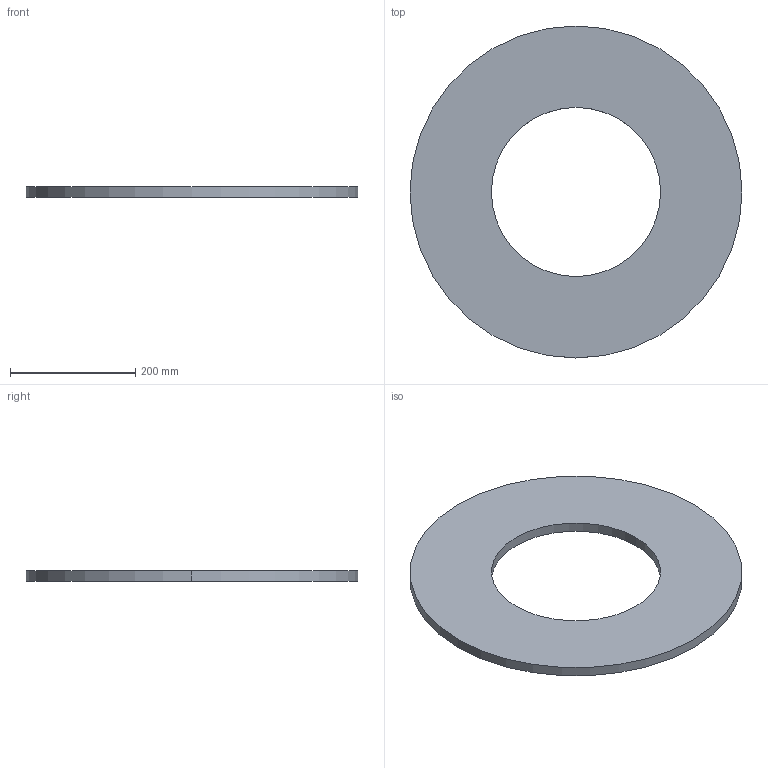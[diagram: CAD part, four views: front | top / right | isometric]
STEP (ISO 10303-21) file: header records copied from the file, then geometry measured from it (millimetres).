
FILE_DESCRIPTION (( 'STEP AP203' ), '1' );
FILE_NAME ('YWSD-2026-03-01-01-01=001 唅蛌奻啣.STEP', '2026-07-24T07:27:10', ( 'Windows 蚚誧' ), ( '' ), 'SwSTEP 2.0', 'SolidWorks 2024', '' );
FILE_SCHEMA (( 'CONFIG_CONTROL_DESIGN' ));
Length unit declared in the file: millimetre
Products named in the file (1): YWSD-2026-03-01-01-01=001 旋转上板
Bounding box: 530 x 530 x 16 mm (x, y, z)
Volume: 2613805.1 mm3; surface area: 366938 mm2
Topology: 1 solids, 1 shells, 6 faces, 12 edges, 8 vertices
Faces by surface type: cylinder 4, plane 2
Entity records: 245 total; most frequent: DIRECTION 34, CARTESIAN_POINT 27, ORIENTED_EDGE 24, AXIS2_PLACEMENT_3D 15, EDGE_CURVE 12, CIRCLE 8, VERTEX_POINT 8, PERSON_AND_ORGANIZATION 8
